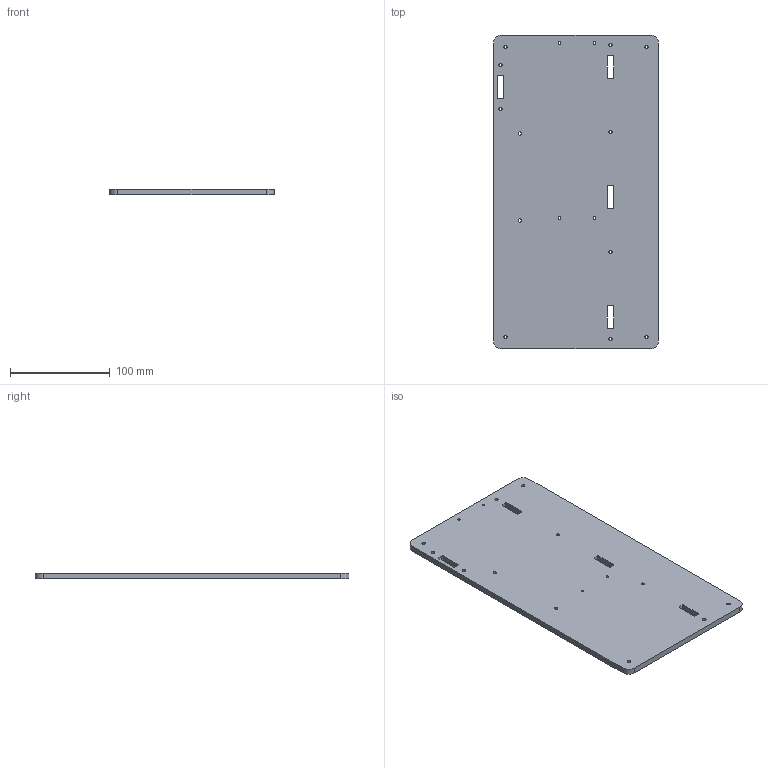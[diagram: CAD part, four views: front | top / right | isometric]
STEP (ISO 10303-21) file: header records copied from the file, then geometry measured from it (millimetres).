
FILE_DESCRIPTION(('Open CASCADE Model'),'2;1');
FILE_NAME('Open CASCADE Shape Model','2026-10-14T18:02:55',('Author'),( 'Open CASCADE'),'Open CASCADE STEP processor 7.9','Open CASCADE 7.9' ,'Unknown');
FILE_SCHEMA(('AUTOMOTIVE_DESIGN { 1 0 10303 214 1 1 1 1 }'));
Length unit declared in the file: millimetre
Products named in the file (1): Open CASCADE STEP translator 7.9 3
Bounding box: 165 x 314 x 6 mm (x, y, z)
Volume: 306364.9 mm3; surface area: 110059.1 mm2
Topology: 1 solids, 1 shells, 64 faces, 180 edges, 118 vertices
Faces by surface type: cylinder 36, plane 22, cone 6
Full cylindrical faces by diameter (mm): 2.5 x4, 3.3 x6, 3.4 x6
Entity records: 4556 total; most frequent: CARTESIAN_POINT 979, DIRECTION 652, ORIENTED_EDGE 360, PCURVE 360, DEFINITIONAL_REPRESENTATION 360, LINE 326, VECTOR 326, EDGE_CURVE 180
